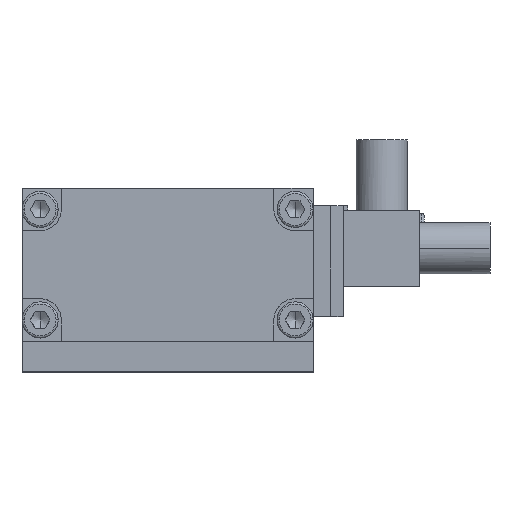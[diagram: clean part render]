
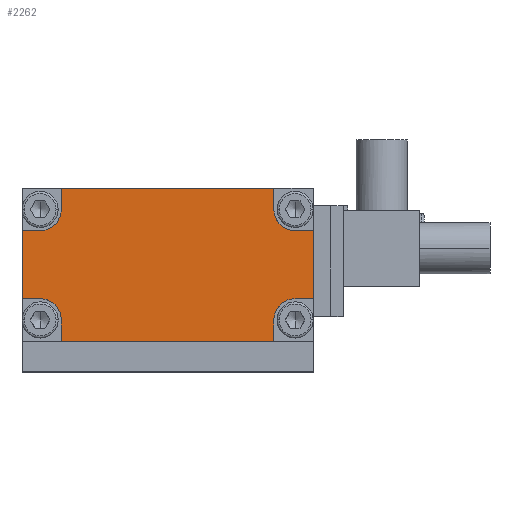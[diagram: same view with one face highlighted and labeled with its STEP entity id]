
A CAD part, top view. The second image highlights one B-rep face of the part: STEP entity #2262.
In plain terms, the highlighted planar face has unit normal (0, 0, 1).
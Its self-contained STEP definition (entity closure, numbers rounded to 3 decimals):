
#1550=CARTESIAN_POINT('Vertex',(-0.1,-26.,147.)) ;
#1553=CARTESIAN_POINT('Line Origine',(-0.1,-18.,147.)) ;
#1557=CARTESIAN_POINT('Vertex',(-0.1,-10.,147.)) ;
#1946=CARTESIAN_POINT('Vertex',(9.15,0.,147.)) ;
#1949=CARTESIAN_POINT('Line Origine',(34.15,0.,147.)) ;
#1953=CARTESIAN_POINT('Vertex',(59.15,0.,147.)) ;
#1995=CARTESIAN_POINT('Vertex',(9.15,-36.,147.)) ;
#2023=CARTESIAN_POINT('Vertex',(59.15,-36.,147.)) ;
#2026=CARTESIAN_POINT('Line Origine',(34.15,-36.,147.)) ;
#2146=CARTESIAN_POINT('Vertex',(4.15,-26.,147.)) ;
#2149=CARTESIAN_POINT('Line Origine',(2.025,-26.,147.)) ;
#2161=CARTESIAN_POINT('Axis2P3D Location',(34.15,-18.,147.)) ;
#2166=CARTESIAN_POINT('Line Origine',(9.15,-2.5,147.)) ;
#2170=CARTESIAN_POINT('Vertex',(9.15,-5.,147.)) ;
#2173=CARTESIAN_POINT('Axis2P3D Location',(4.15,-5.,147.)) ;
#2177=CARTESIAN_POINT('Vertex',(4.15,-10.,147.)) ;
#2180=CARTESIAN_POINT('Line Origine',(2.025,-10.,147.)) ;
#2185=CARTESIAN_POINT('Axis2P3D Location',(4.15,-31.,147.)) ;
#2189=CARTESIAN_POINT('Vertex',(9.15,-31.,147.)) ;
#2192=CARTESIAN_POINT('Line Origine',(9.15,-33.5,147.)) ;
#2197=CARTESIAN_POINT('Line Origine',(59.15,-33.5,147.)) ;
#2201=CARTESIAN_POINT('Vertex',(59.15,-31.,147.)) ;
#2204=CARTESIAN_POINT('Axis2P3D Location',(64.15,-31.,147.)) ;
#2208=CARTESIAN_POINT('Vertex',(64.15,-26.,147.)) ;
#2211=CARTESIAN_POINT('Line Origine',(66.275,-26.,147.)) ;
#2215=CARTESIAN_POINT('Vertex',(68.4,-26.,147.)) ;
#2218=CARTESIAN_POINT('Line Origine',(68.4,-18.,147.)) ;
#2222=CARTESIAN_POINT('Vertex',(68.4,-10.,147.)) ;
#2225=CARTESIAN_POINT('Line Origine',(66.275,-10.,147.)) ;
#2229=CARTESIAN_POINT('Vertex',(64.15,-10.,147.)) ;
#2232=CARTESIAN_POINT('Axis2P3D Location',(64.15,-5.,147.)) ;
#2236=CARTESIAN_POINT('Vertex',(59.15,-5.,147.)) ;
#2239=CARTESIAN_POINT('Line Origine',(59.15,-2.5,147.)) ;
#1554=DIRECTION('Vector Direction',(0.,-1.,0.)) ;
#1950=DIRECTION('Vector Direction',(-1.,0.,0.)) ;
#2027=DIRECTION('Vector Direction',(1.,0.,0.)) ;
#2150=DIRECTION('Vector Direction',(1.,0.,0.)) ;
#2162=DIRECTION('Axis2P3D Direction',(0.,0.,-1.)) ;
#2163=DIRECTION('Axis2P3D XDirection',(-1.,0.,0.)) ;
#2167=DIRECTION('Vector Direction',(0.,-1.,0.)) ;
#2174=DIRECTION('Axis2P3D Direction',(0.,0.,-1.)) ;
#2181=DIRECTION('Vector Direction',(-1.,0.,0.)) ;
#2186=DIRECTION('Axis2P3D Direction',(0.,0.,-1.)) ;
#2193=DIRECTION('Vector Direction',(0.,-1.,0.)) ;
#2198=DIRECTION('Vector Direction',(0.,1.,0.)) ;
#2205=DIRECTION('Axis2P3D Direction',(0.,0.,-1.)) ;
#2212=DIRECTION('Vector Direction',(1.,0.,0.)) ;
#2219=DIRECTION('Vector Direction',(0.,1.,0.)) ;
#2226=DIRECTION('Vector Direction',(-1.,0.,0.)) ;
#2233=DIRECTION('Axis2P3D Direction',(0.,0.,-1.)) ;
#2240=DIRECTION('Vector Direction',(0.,1.,0.)) ;
#2164=AXIS2_PLACEMENT_3D('Plane Axis2P3D',#2161,#2162,#2163) ;
#2175=AXIS2_PLACEMENT_3D('Circle Axis2P3D',#2173,#2174,$) ;
#2187=AXIS2_PLACEMENT_3D('Circle Axis2P3D',#2185,#2186,$) ;
#2206=AXIS2_PLACEMENT_3D('Circle Axis2P3D',#2204,#2205,$) ;
#2234=AXIS2_PLACEMENT_3D('Circle Axis2P3D',#2232,#2233,$) ;
#2245=ORIENTED_EDGE('',*,*,#2172,.T.) ;
#2246=ORIENTED_EDGE('',*,*,#2179,.T.) ;
#2247=ORIENTED_EDGE('',*,*,#2184,.T.) ;
#2248=ORIENTED_EDGE('',*,*,#1559,.T.) ;
#2249=ORIENTED_EDGE('',*,*,#2153,.T.) ;
#2250=ORIENTED_EDGE('',*,*,#2191,.T.) ;
#2251=ORIENTED_EDGE('',*,*,#2196,.T.) ;
#2252=ORIENTED_EDGE('',*,*,#2030,.T.) ;
#2253=ORIENTED_EDGE('',*,*,#2203,.T.) ;
#2254=ORIENTED_EDGE('',*,*,#2210,.T.) ;
#2255=ORIENTED_EDGE('',*,*,#2217,.T.) ;
#2256=ORIENTED_EDGE('',*,*,#2224,.T.) ;
#2257=ORIENTED_EDGE('',*,*,#2231,.T.) ;
#2258=ORIENTED_EDGE('',*,*,#2238,.T.) ;
#2259=ORIENTED_EDGE('',*,*,#2243,.T.) ;
#2260=ORIENTED_EDGE('',*,*,#1955,.T.) ;
#1555=VECTOR('Line Direction',#1554,1.) ;
#1951=VECTOR('Line Direction',#1950,1.) ;
#2028=VECTOR('Line Direction',#2027,1.) ;
#2151=VECTOR('Line Direction',#2150,1.) ;
#2168=VECTOR('Line Direction',#2167,1.) ;
#2182=VECTOR('Line Direction',#2181,1.) ;
#2194=VECTOR('Line Direction',#2193,1.) ;
#2199=VECTOR('Line Direction',#2198,1.) ;
#2213=VECTOR('Line Direction',#2212,1.) ;
#2220=VECTOR('Line Direction',#2219,1.) ;
#2227=VECTOR('Line Direction',#2226,1.) ;
#2241=VECTOR('Line Direction',#2240,1.) ;
#2262=ADVANCED_FACE('Deckel',(#2261),#2165,.F.) ;
#2176=CIRCLE('generated circle',#2175,5.) ;
#2188=CIRCLE('generated circle',#2187,5.) ;
#2207=CIRCLE('generated circle',#2206,5.) ;
#2235=CIRCLE('generated circle',#2234,5.) ;
#1559=EDGE_CURVE('',#1558,#1551,#1556,.T.) ;
#1955=EDGE_CURVE('',#1954,#1947,#1952,.T.) ;
#2030=EDGE_CURVE('',#1996,#2024,#2029,.T.) ;
#2153=EDGE_CURVE('',#1551,#2147,#2152,.T.) ;
#2172=EDGE_CURVE('',#1947,#2171,#2169,.T.) ;
#2179=EDGE_CURVE('',#2171,#2178,#2176,.T.) ;
#2184=EDGE_CURVE('',#2178,#1558,#2183,.T.) ;
#2191=EDGE_CURVE('',#2147,#2190,#2188,.T.) ;
#2196=EDGE_CURVE('',#2190,#1996,#2195,.T.) ;
#2203=EDGE_CURVE('',#2024,#2202,#2200,.T.) ;
#2210=EDGE_CURVE('',#2202,#2209,#2207,.T.) ;
#2217=EDGE_CURVE('',#2209,#2216,#2214,.T.) ;
#2224=EDGE_CURVE('',#2216,#2223,#2221,.T.) ;
#2231=EDGE_CURVE('',#2223,#2230,#2228,.T.) ;
#2238=EDGE_CURVE('',#2230,#2237,#2235,.T.) ;
#2243=EDGE_CURVE('',#2237,#1954,#2242,.T.) ;
#2244=EDGE_LOOP('',(#2245,#2246,#2247,#2248,#2249,#2250,#2251,#2252,#2253,#2254,#2255,#2256,#2257,#2258,#2259,#2260)) ;
#2261=FACE_OUTER_BOUND('',#2244,.T.) ;
#1556=LINE('Line',#1553,#1555) ;
#1952=LINE('Line',#1949,#1951) ;
#2029=LINE('Line',#2026,#2028) ;
#2152=LINE('Line',#2149,#2151) ;
#2169=LINE('Line',#2166,#2168) ;
#2183=LINE('Line',#2180,#2182) ;
#2195=LINE('Line',#2192,#2194) ;
#2200=LINE('Line',#2197,#2199) ;
#2214=LINE('Line',#2211,#2213) ;
#2221=LINE('Line',#2218,#2220) ;
#2228=LINE('Line',#2225,#2227) ;
#2242=LINE('Line',#2239,#2241) ;
#2165=PLANE('Plane',#2164) ;
#1551=VERTEX_POINT('',#1550) ;
#1558=VERTEX_POINT('',#1557) ;
#1947=VERTEX_POINT('',#1946) ;
#1954=VERTEX_POINT('',#1953) ;
#1996=VERTEX_POINT('',#1995) ;
#2024=VERTEX_POINT('',#2023) ;
#2147=VERTEX_POINT('',#2146) ;
#2171=VERTEX_POINT('',#2170) ;
#2178=VERTEX_POINT('',#2177) ;
#2190=VERTEX_POINT('',#2189) ;
#2202=VERTEX_POINT('',#2201) ;
#2209=VERTEX_POINT('',#2208) ;
#2216=VERTEX_POINT('',#2215) ;
#2223=VERTEX_POINT('',#2222) ;
#2230=VERTEX_POINT('',#2229) ;
#2237=VERTEX_POINT('',#2236) ;
